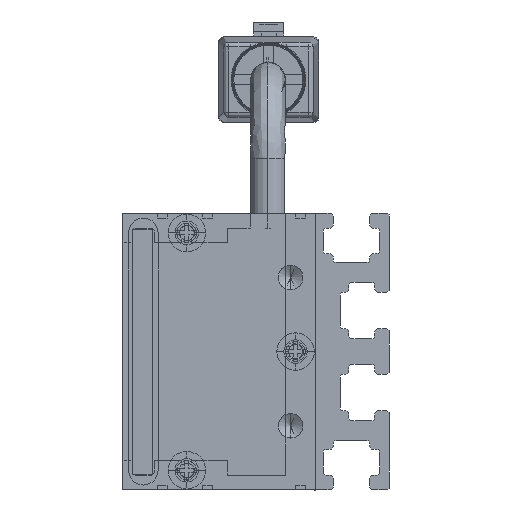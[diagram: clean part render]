
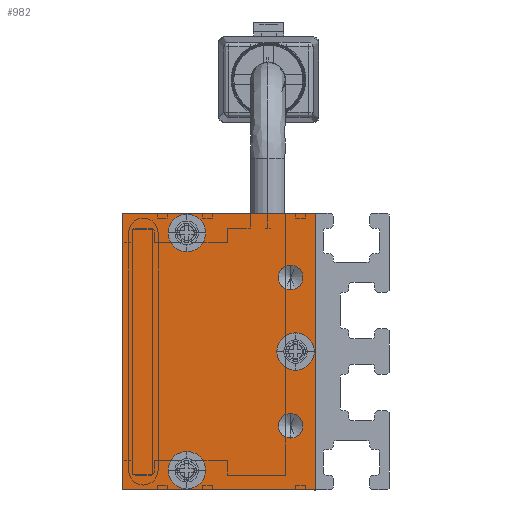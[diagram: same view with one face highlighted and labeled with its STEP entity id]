
A CAD part, left-side view. The second image highlights one B-rep face of the part: STEP entity #982.
In plain terms, the highlighted planar face has unit normal (-1, 0, 0) as drawn and (0, 0, -1) by its records, which use the part's own axes.
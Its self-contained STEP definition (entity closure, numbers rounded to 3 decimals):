
#8 = FACE_BOUND ( 'NONE', #10355, .T. ) ;
#65 = EDGE_CURVE ( 'NONE', #7786, #3947, #10947, .T. ) ;
#282 = VERTEX_POINT ( 'NONE', #3840 ) ;
#434 = EDGE_CURVE ( 'NONE', #3947, #7786, #8478, .T. ) ;
#461 = AXIS2_PLACEMENT_3D ( 'NONE', #7318, #3069, #1930 ) ;
#720 = CIRCLE ( 'NONE', #13632, 1.25 ) ;
#770 = DIRECTION ( 'NONE',  ( -1., 0., 0. ) ) ;
#787 = EDGE_LOOP ( 'NONE', ( #5944, #13903 ) ) ;
#834 = ORIENTED_EDGE ( 'NONE', *, *, #4969, .F. ) ;
#976 = DIRECTION ( 'NONE',  ( -1., 0., 0. ) ) ;
#982 = ADVANCED_FACE ( 'NONE', ( #3201, #2280, #8, #7791, #12976, #1214 ), #11834, .T. ) ;
#1083 = ORIENTED_EDGE ( 'NONE', *, *, #2361, .F. ) ;
#1125 = AXIS2_PLACEMENT_3D ( 'NONE', #3741, #7287, #13743 ) ;
#1214 = FACE_OUTER_BOUND ( 'NONE', #9576, .T. ) ;
#1239 = VERTEX_POINT ( 'NONE', #8360 ) ;
#1260 = VERTEX_POINT ( 'NONE', #1979 ) ;
#1285 = CARTESIAN_POINT ( 'NONE',  ( 0., 0., -2.5 ) ) ;
#1448 = EDGE_LOOP ( 'NONE', ( #3435, #12501 ) ) ;
#1464 = VERTEX_POINT ( 'NONE', #13970 ) ;
#1709 = LINE ( 'NONE', #7093, #7070 ) ;
#1826 = CIRCLE ( 'NONE', #7018, 1.25 ) ;
#1930 = DIRECTION ( 'NONE',  ( -1., 0., 0. ) ) ;
#1979 = CARTESIAN_POINT ( 'NONE',  ( -6.25, 2.5, -2.5 ) ) ;
#2051 = VERTEX_POINT ( 'NONE', #12405 ) ;
#2228 = CARTESIAN_POINT ( 'NONE',  ( -8.75, 2.5, -2.5 ) ) ;
#2265 = VECTOR ( 'NONE', #976, 1000. ) ;
#2280 = FACE_BOUND ( 'NONE', #1448, .T. ) ;
#2361 = EDGE_CURVE ( 'NONE', #5809, #7887, #2596, .T. ) ;
#2596 = CIRCLE ( 'NONE', #3066, 1.9 ) ;
#2731 = ORIENTED_EDGE ( 'NONE', *, *, #11112, .F. ) ;
#2772 = DIRECTION ( 'NONE',  ( 0., 0., -1. ) ) ;
#2780 = DIRECTION ( 'NONE',  ( 0., 1., 0. ) ) ;
#2820 = DIRECTION ( 'NONE',  ( -1., 0., 0. ) ) ;
#2849 = DIRECTION ( 'NONE',  ( -1., 0., 0. ) ) ;
#3066 = AXIS2_PLACEMENT_3D ( 'NONE', #6202, #5276, #6336 ) ;
#3069 = DIRECTION ( 'NONE',  ( 0., 0., -1. ) ) ;
#3201 = FACE_BOUND ( 'NONE', #4422, .T. ) ;
#3267 = DIRECTION ( 'NONE',  ( 0., 0., -1. ) ) ;
#3284 = DIRECTION ( 'NONE',  ( 0., 0., -1. ) ) ;
#3435 = ORIENTED_EDGE ( 'NONE', *, *, #65, .F. ) ;
#3707 = CARTESIAN_POINT ( 'NONE',  ( 14., 0., -2.5 ) ) ;
#3741 = CARTESIAN_POINT ( 'NONE',  ( 0., 2., -2.5 ) ) ;
#3840 = CARTESIAN_POINT ( 'NONE',  ( 8.75, 2.5, -2.5 ) ) ;
#3911 = ORIENTED_EDGE ( 'NONE', *, *, #7605, .F. ) ;
#3947 = VERTEX_POINT ( 'NONE', #12570 ) ;
#3972 = LINE ( 'NONE', #12476, #11801 ) ;
#4313 = CIRCLE ( 'NONE', #12221, 1.9 ) ;
#4422 = EDGE_LOOP ( 'NONE', ( #2731, #8239 ) ) ;
#4459 = DIRECTION ( 'NONE',  ( -1., 0., 0. ) ) ;
#4962 = CARTESIAN_POINT ( 'NONE',  ( -12., 13., -2.5 ) ) ;
#4969 = EDGE_CURVE ( 'NONE', #282, #6029, #10114, .T. ) ;
#5037 = ORIENTED_EDGE ( 'NONE', *, *, #7587, .F. ) ;
#5066 = DIRECTION ( 'NONE',  ( 0., 0., -1. ) ) ;
#5146 = CARTESIAN_POINT ( 'NONE',  ( -14., 0., -2.5 ) ) ;
#5165 = DIRECTION ( 'NONE',  ( 0., -1., 0. ) ) ;
#5276 = DIRECTION ( 'NONE',  ( 0., 0., -1. ) ) ;
#5809 = VERTEX_POINT ( 'NONE', #9500 ) ;
#5815 = AXIS2_PLACEMENT_3D ( 'NONE', #10257, #2772, #770 ) ;
#5944 = ORIENTED_EDGE ( 'NONE', *, *, #12260, .F. ) ;
#5969 = LINE ( 'NONE', #3707, #13797 ) ;
#5983 = AXIS2_PLACEMENT_3D ( 'NONE', #4962, #13638, #11559 ) ;
#6029 = VERTEX_POINT ( 'NONE', #8987 ) ;
#6041 = DIRECTION ( 'NONE',  ( 1., 0., 0. ) ) ;
#6135 = CIRCLE ( 'NONE', #461, 1.9 ) ;
#6168 = DIRECTION ( 'NONE',  ( 0., 0., -1. ) ) ;
#6202 = CARTESIAN_POINT ( 'NONE',  ( 0., 2., -2.5 ) ) ;
#6293 = CARTESIAN_POINT ( 'NONE',  ( -14., 19.5, -2.5 ) ) ;
#6298 = CARTESIAN_POINT ( 'NONE',  ( -13.9, 13., -2.5 ) ) ;
#6336 = DIRECTION ( 'NONE',  ( -1., 0., 0. ) ) ;
#6340 = AXIS2_PLACEMENT_3D ( 'NONE', #10316, #13603, #6987 ) ;
#6880 = AXIS2_PLACEMENT_3D ( 'NONE', #7206, #5066, #2820 ) ;
#6987 = DIRECTION ( 'NONE',  ( -1., 0., 0. ) ) ;
#7018 = AXIS2_PLACEMENT_3D ( 'NONE', #12994, #3284, #7602 ) ;
#7070 = VECTOR ( 'NONE', #2780, 1000. ) ;
#7093 = CARTESIAN_POINT ( 'NONE',  ( 14., 19.5, -2.5 ) ) ;
#7206 = CARTESIAN_POINT ( 'NONE',  ( -12., 13., -2.5 ) ) ;
#7287 = DIRECTION ( 'NONE',  ( 0., 0., -1. ) ) ;
#7318 = CARTESIAN_POINT ( 'NONE',  ( 12., 13., -2.5 ) ) ;
#7587 = EDGE_CURVE ( 'NONE', #2051, #8830, #1709, .T. ) ;
#7602 = DIRECTION ( 'NONE',  ( -1., 0., 0. ) ) ;
#7605 = EDGE_CURVE ( 'NONE', #1239, #11457, #3972, .T. ) ;
#7786 = VERTEX_POINT ( 'NONE', #6298 ) ;
#7791 = FACE_BOUND ( 'NONE', #7816, .T. ) ;
#7816 = EDGE_LOOP ( 'NONE', ( #13263, #834 ) ) ;
#7887 = VERTEX_POINT ( 'NONE', #13167 ) ;
#7939 = DIRECTION ( 'NONE',  ( 0., 0., -1. ) ) ;
#7967 = EDGE_CURVE ( 'NONE', #7887, #5809, #12664, .T. ) ;
#8160 = CARTESIAN_POINT ( 'NONE',  ( 14., 19.5, -2.5 ) ) ;
#8239 = ORIENTED_EDGE ( 'NONE', *, *, #13112, .F. ) ;
#8360 = CARTESIAN_POINT ( 'NONE',  ( -14., 19.5, -2.5 ) ) ;
#8478 = CIRCLE ( 'NONE', #5983, 1.9 ) ;
#8631 = LINE ( 'NONE', #6293, #2265 ) ;
#8719 = AXIS2_PLACEMENT_3D ( 'NONE', #1285, #3267, #4459 ) ;
#8830 = VERTEX_POINT ( 'NONE', #8160 ) ;
#8927 = VERTEX_POINT ( 'NONE', #13766 ) ;
#8987 = CARTESIAN_POINT ( 'NONE',  ( 6.25, 2.5, -2.5 ) ) ;
#9354 = CARTESIAN_POINT ( 'NONE',  ( 12., 13., -2.5 ) ) ;
#9500 = CARTESIAN_POINT ( 'NONE',  ( -1.9, 2., -2.5 ) ) ;
#9576 = EDGE_LOOP ( 'NONE', ( #5037, #10493, #3911, #12265 ) ) ;
#9921 = EDGE_CURVE ( 'NONE', #11457, #2051, #5969, .T. ) ;
#10114 = CIRCLE ( 'NONE', #5815, 1.25 ) ;
#10257 = CARTESIAN_POINT ( 'NONE',  ( 7.5, 2.5, -2.5 ) ) ;
#10316 = CARTESIAN_POINT ( 'NONE',  ( -7.5, 2.5, -2.5 ) ) ;
#10355 = EDGE_LOOP ( 'NONE', ( #1083, #11720 ) ) ;
#10493 = ORIENTED_EDGE ( 'NONE', *, *, #9921, .F. ) ;
#10523 = VERTEX_POINT ( 'NONE', #2228 ) ;
#10537 = EDGE_CURVE ( 'NONE', #1260, #10523, #1826, .T. ) ;
#10947 = CIRCLE ( 'NONE', #6880, 1.9 ) ;
#11112 = EDGE_CURVE ( 'NONE', #1464, #8927, #4313, .T. ) ;
#11457 = VERTEX_POINT ( 'NONE', #5146 ) ;
#11559 = DIRECTION ( 'NONE',  ( -1., 0., 0. ) ) ;
#11720 = ORIENTED_EDGE ( 'NONE', *, *, #7967, .F. ) ;
#11752 = DIRECTION ( 'NONE',  ( -1., 0., 0. ) ) ;
#11801 = VECTOR ( 'NONE', #5165, 1000. ) ;
#11834 = PLANE ( 'NONE',  #8719 ) ;
#11996 = EDGE_CURVE ( 'NONE', #8830, #1239, #8631, .T. ) ;
#12221 = AXIS2_PLACEMENT_3D ( 'NONE', #9354, #6168, #11752 ) ;
#12260 = EDGE_CURVE ( 'NONE', #10523, #1260, #12909, .T. ) ;
#12265 = ORIENTED_EDGE ( 'NONE', *, *, #11996, .F. ) ;
#12405 = CARTESIAN_POINT ( 'NONE',  ( 14., 0., -2.5 ) ) ;
#12476 = CARTESIAN_POINT ( 'NONE',  ( -14., 0., -2.5 ) ) ;
#12501 = ORIENTED_EDGE ( 'NONE', *, *, #434, .F. ) ;
#12570 = CARTESIAN_POINT ( 'NONE',  ( -10.1, 13., -2.5 ) ) ;
#12664 = CIRCLE ( 'NONE', #1125, 1.9 ) ;
#12909 = CIRCLE ( 'NONE', #6340, 1.25 ) ;
#12976 = FACE_BOUND ( 'NONE', #787, .T. ) ;
#12994 = CARTESIAN_POINT ( 'NONE',  ( -7.5, 2.5, -2.5 ) ) ;
#13112 = EDGE_CURVE ( 'NONE', #8927, #1464, #6135, .T. ) ;
#13167 = CARTESIAN_POINT ( 'NONE',  ( 1.9, 2., -2.5 ) ) ;
#13263 = ORIENTED_EDGE ( 'NONE', *, *, #13474, .F. ) ;
#13323 = CARTESIAN_POINT ( 'NONE',  ( 7.5, 2.5, -2.5 ) ) ;
#13474 = EDGE_CURVE ( 'NONE', #6029, #282, #720, .T. ) ;
#13603 = DIRECTION ( 'NONE',  ( 0., 0., -1. ) ) ;
#13632 = AXIS2_PLACEMENT_3D ( 'NONE', #13323, #7939, #2849 ) ;
#13638 = DIRECTION ( 'NONE',  ( 0., 0., -1. ) ) ;
#13743 = DIRECTION ( 'NONE',  ( -1., 0., 0. ) ) ;
#13766 = CARTESIAN_POINT ( 'NONE',  ( 13.9, 13., -2.5 ) ) ;
#13797 = VECTOR ( 'NONE', #6041, 1000. ) ;
#13903 = ORIENTED_EDGE ( 'NONE', *, *, #10537, .F. ) ;
#13970 = CARTESIAN_POINT ( 'NONE',  ( 10.1, 13., -2.5 ) ) ;
